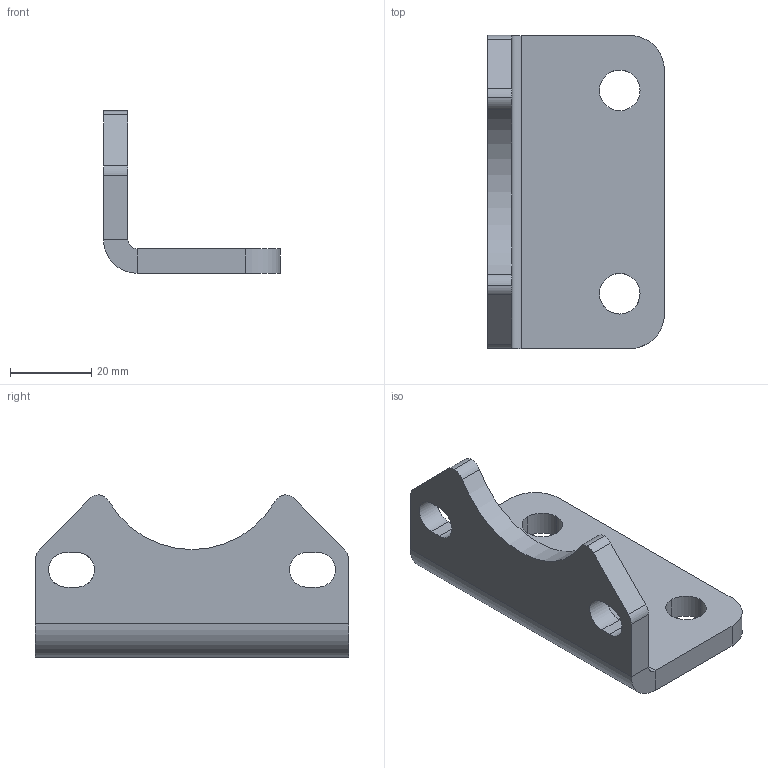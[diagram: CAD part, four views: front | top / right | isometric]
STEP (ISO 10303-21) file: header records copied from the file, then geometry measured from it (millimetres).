
FILE_DESCRIPTION(('CATIA V5 STEP Exchange'),'2;1');
FILE_NAME('D:\stp file for catalog\BAST-LB\LB 63.stp','2018-06-13T05:25:46+00:00',('none'),('none'),'CATIA Version 5-6 Release 2016','CATIA V5 STEP AP203','none');
FILE_SCHEMA(('CONFIG_CONTROL_DESIGN'));
Length unit declared in the file: millimetre
Products named in the file (1): LB-63-00
Bounding box: 43.5 x 77 x 39.99 mm (x, y, z)
Volume: 28948.4 mm3; surface area: 12150.2 mm2
Topology: 1 solids, 1 shells, 40 faces, 106 edges, 68 vertices
Faces by surface type: cylinder 23, plane 17
Entity records: 1273 total; most frequent: CARTESIAN_POINT 249, ORIENTED_EDGE 212, DIRECTION 174, EDGE_CURVE 106, AXIS2_PLACEMENT_3D 79, VERTEX_POINT 68, VECTOR 60, LINE 60
